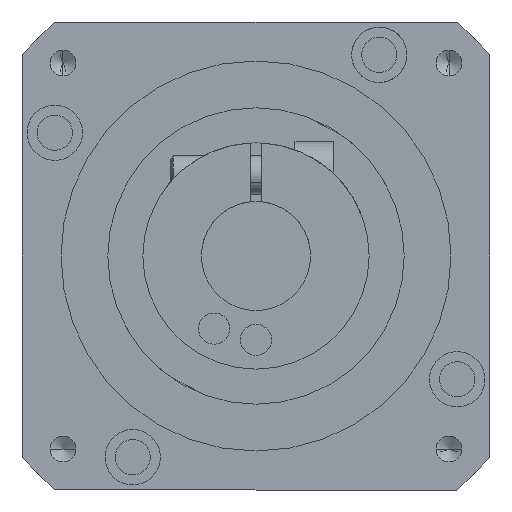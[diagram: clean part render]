
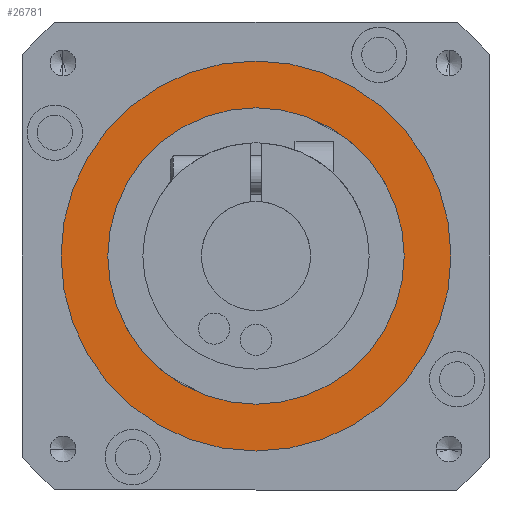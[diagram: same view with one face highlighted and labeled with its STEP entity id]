
A CAD part, front view. The second image highlights one B-rep face of the part: STEP entity #26781.
In plain terms, the highlighted planar face has unit normal (0, -1, 0).
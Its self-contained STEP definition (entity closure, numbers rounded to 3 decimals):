
#511 = CARTESIAN_POINT ( 'NONE',  ( -19., -66.835, 0. ) ) ;
#1111 = ORIENTED_EDGE ( 'NONE', *, *, #15729, .T. ) ;
#2134 = ORIENTED_EDGE ( 'NONE', *, *, #6320, .T. ) ;
#2715 = PLANE ( 'NONE',  #10454 ) ;
#3942 = VERTEX_POINT ( 'NONE', #4622 ) ;
#4159 = CIRCLE ( 'NONE', #6999, 25. ) ;
#4523 = FACE_OUTER_BOUND ( 'NONE', #27291, .T. ) ;
#4622 = CARTESIAN_POINT ( 'NONE',  ( 25., -66.835, 0. ) ) ;
#5183 = FACE_BOUND ( 'NONE', #21027, .T. ) ;
#5755 = DIRECTION ( 'NONE',  ( 0., -1., 0. ) ) ;
#5854 = DIRECTION ( 'NONE',  ( 0., 1., 0. ) ) ;
#6320 = EDGE_CURVE ( 'NONE', #3942, #18383, #4159, .T. ) ;
#6956 = DIRECTION ( 'NONE',  ( -1., 0., 0. ) ) ;
#6999 = AXIS2_PLACEMENT_3D ( 'NONE', #18386, #5755, #20475 ) ;
#7679 = CARTESIAN_POINT ( 'NONE',  ( 0., -66.835, 0. ) ) ;
#8004 = AXIS2_PLACEMENT_3D ( 'NONE', #18491, #5854, #20576 ) ;
#8051 = CIRCLE ( 'NONE', #16062, 25. ) ;
#8744 = DIRECTION ( 'NONE',  ( 0., -1., 0. ) ) ;
#9622 = VERTEX_POINT ( 'NONE', #511 ) ;
#9806 = DIRECTION ( 'NONE',  ( -1., 0., 0. ) ) ;
#10454 = AXIS2_PLACEMENT_3D ( 'NONE', #17450, #19551, #6956 ) ;
#12182 = EDGE_CURVE ( 'NONE', #18383, #3942, #8051, .T. ) ;
#12456 = ORIENTED_EDGE ( 'NONE', *, *, #12182, .T. ) ;
#14763 = CIRCLE ( 'NONE', #16757, 19. ) ;
#15729 = EDGE_CURVE ( 'NONE', #9622, #17219, #20732, .T. ) ;
#16062 = AXIS2_PLACEMENT_3D ( 'NONE', #21350, #8744, #23465 ) ;
#16757 = AXIS2_PLACEMENT_3D ( 'NONE', #7679, #22406, #9806 ) ;
#17219 = VERTEX_POINT ( 'NONE', #24608 ) ;
#17249 = CARTESIAN_POINT ( 'NONE',  ( -25., -66.835, 0. ) ) ;
#17450 = CARTESIAN_POINT ( 'NONE',  ( 0., -66.835, 25. ) ) ;
#18383 = VERTEX_POINT ( 'NONE', #17249 ) ;
#18386 = CARTESIAN_POINT ( 'NONE',  ( 0., -66.835, 0. ) ) ;
#18491 = CARTESIAN_POINT ( 'NONE',  ( 0., -66.835, 0. ) ) ;
#19551 = DIRECTION ( 'NONE',  ( 0., 1., 0. ) ) ;
#20475 = DIRECTION ( 'NONE',  ( -1., 0., 0. ) ) ;
#20576 = DIRECTION ( 'NONE',  ( -1., 0., 0. ) ) ;
#20732 = CIRCLE ( 'NONE', #8004, 19. ) ;
#21027 = EDGE_LOOP ( 'NONE', ( #1111, #27195 ) ) ;
#21350 = CARTESIAN_POINT ( 'NONE',  ( 0., -66.835, 0. ) ) ;
#22406 = DIRECTION ( 'NONE',  ( 0., 1., 0. ) ) ;
#23465 = DIRECTION ( 'NONE',  ( -1., 0., 0. ) ) ;
#24608 = CARTESIAN_POINT ( 'NONE',  ( 19., -66.835, 0. ) ) ;
#25518 = EDGE_CURVE ( 'NONE', #17219, #9622, #14763, .T. ) ;
#26781 = ADVANCED_FACE ( 'NONE', ( #4523, #5183 ), #2715, .F. ) ;
#27195 = ORIENTED_EDGE ( 'NONE', *, *, #25518, .T. ) ;
#27291 = EDGE_LOOP ( 'NONE', ( #12456, #2134 ) ) ;
